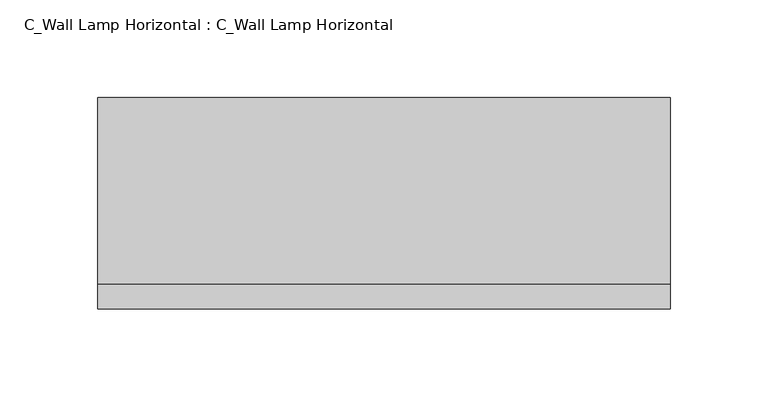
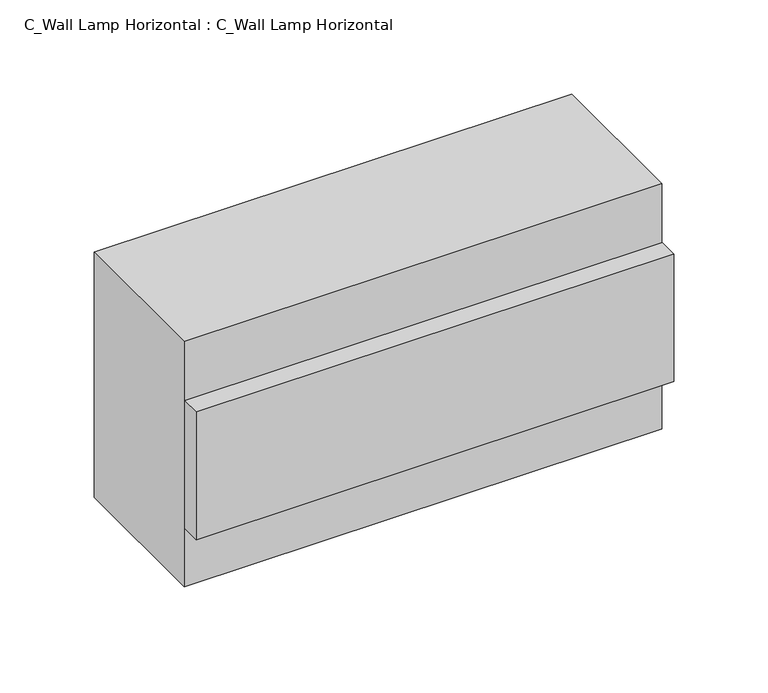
"""IFC4 building model written with IfcOpenShell, lengths in millimetres: light fixture geometry, C_Wall Lamp Horizontal : C_Wall Lamp Horizontal."""

from ifc_helpers import new_model, si_unit, frame, origin, place, context, project, spatial, polyline, outline, extrude, source, transform, mapped, element, save


def c_wall_lamp_horizontal_c_wall_lamp_horizontal_2ccf24a9(model_context):
    return source(origin(), model_context, "Body", "SweptSolid", [
        extrude(outline(polyline([(-182.4056627, 95.25), (-182.4056627, 190.5), (109.6943373, 190.5), (109.6943373, 95.25), (-182.4056627, 95.25)])), frame((0.0, 0.0, 1880.8737961), z_axis=(0.0, 0.0, 1.0), x_axis=(1.0, 0.0, 0.0)), (0.0, 0.0, 1.0), 158.75),
        extrude(outline(polyline([(-182.4056627, 82.55), (-182.4056627, 95.25), (109.6943373, 95.25), (109.6943373, 82.55), (-182.4056627, 82.55)])), frame((0.0, 0.0, 1919.0474582), z_axis=(0.0, 0.0, 1.0), x_axis=(1.0, 0.0, 0.0)), (0.0, 0.0, 1.0), 82.55),
    ])


if __name__ == "__main__":
    model = new_model("IFC4")
    model_context = context("Model", 3, world=origin())
    ifc_project = project(units=[si_unit("LENGTHUNIT", "METRE", prefix="MILLI")], contexts=[model_context])
    site = spatial("IfcSite", under=ifc_project)
    building = spatial("IfcBuilding", under=site)
    placement = place(None, origin())
    c_wall_lamp_horizontal_c_wall_lamp_horizontal_shape = c_wall_lamp_horizontal_c_wall_lamp_horizontal_2ccf24a9(model_context)
    element("IfcLightFixture", 1, ObjectType="C_Wall Lamp Horizontal : C_Wall Lamp Horizontal", at=placement, inside=building, context=model_context, shape_type="MappedRepresentation", body=[
        mapped(c_wall_lamp_horizontal_c_wall_lamp_horizontal_shape, transform((0.0, 0.0, 0.0), x_axis=(1.0, 0.0, 0.0), y_axis=(0.0, 1.0, 0.0), z_axis=(0.0, 0.0, 1.0))),
    ])
    save(model, "model.ifc")
